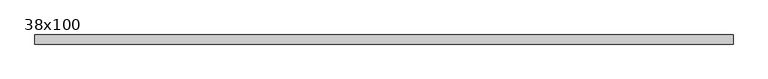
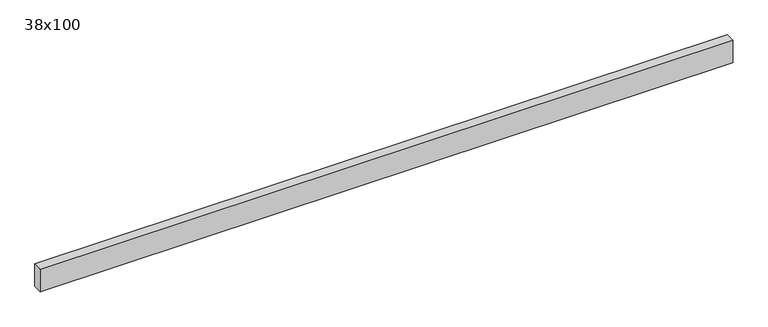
"""IFC4 building model written with IfcOpenShell, lengths in millimetres: beam geometry, Poutre - Bois de construction de dimensions courantes : 38x100."""

from ifc_helpers import new_model, si_unit, frame, origin, place, context, project, spatial, polyline, outline, extrude, source, transform, mapped, element, save


def beam_38x100_8d9dc14a(model_context):
    return source(origin(), model_context, "Body", "SweptSolid", [
        extrude(outline(polyline([(1451.0, 19.05), (1451.0, -19.05), (-1451.0, -19.05), (-1451.0, 19.05), (1451.0, 19.05)])), frame((0.0, 0.0, -50.0), z_axis=(0.0, 0.0, 1.0), x_axis=(1.0, 0.0, 0.0)), (0.0, 0.0, 1.0), 100.0),
    ])


if __name__ == "__main__":
    model = new_model("IFC4")
    model_context = context("Model", 3, world=origin())
    ifc_project = project(units=[si_unit("LENGTHUNIT", "METRE", prefix="MILLI")], contexts=[model_context])
    site = spatial("IfcSite", under=ifc_project)
    building = spatial("IfcBuilding", under=site)
    placement = place(None, origin())
    beam_38x100_shape = beam_38x100_8d9dc14a(model_context)
    element("IfcBeam", 1, ObjectType="Poutre - Bois de construction de dimensions courantes : 38x100", at=placement, inside=building, context=model_context, shape_type="MappedRepresentation", body=[
        mapped(beam_38x100_shape, transform((0.0, 0.0, 0.0), x_axis=(1.0, 0.0, 0.0), y_axis=(0.0, 1.0, 0.0), z_axis=(0.0, 0.0, 1.0))),
    ])
    save(model, "model.ifc")
